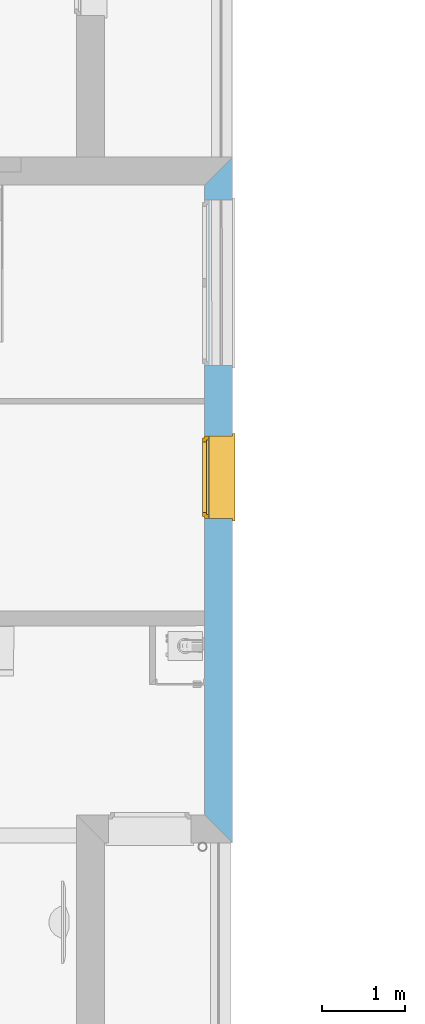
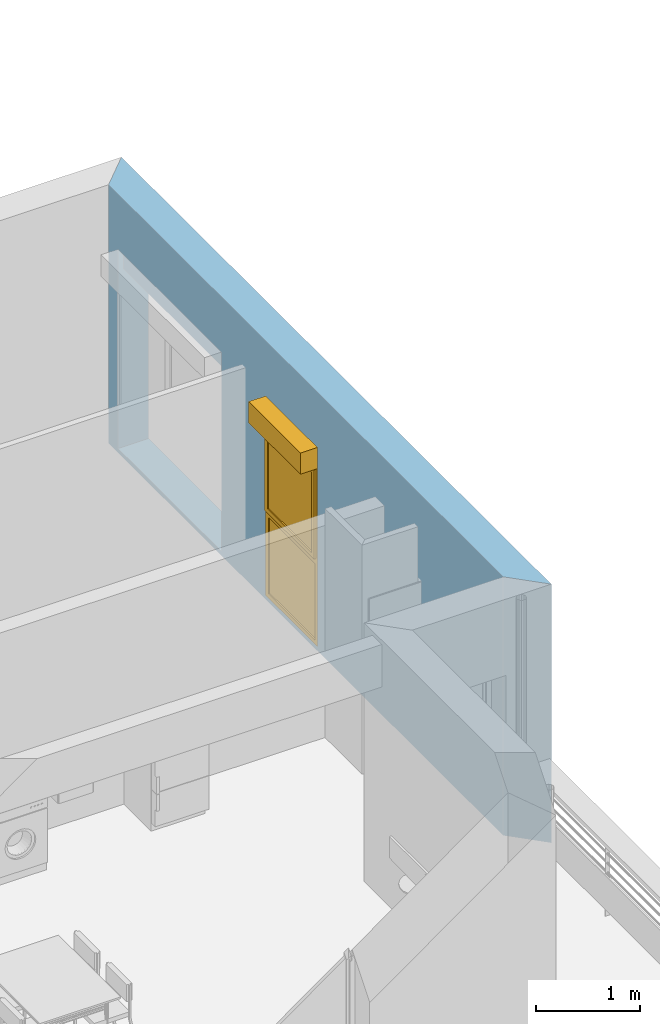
# One storey, part 19 of 165: 1 window, 2 openings, plus 1 element that does not belong to this part.
"""IFC2X3 building model written with IfcOpenShell, lengths in millimetres."""

from ifc_helpers import new_model, entity, si_unit, converted_unit, derived_unit, money_unit, direction, frame, origin_with_axes, place, context, subcontext, project, spatial, polyline, outline, extrude, open_shell, faceted_brep, surface_model, source, transform, mapped, material, layer, layer_set, layer_usage, type_object, element, fill, save


model = new_model("IFC2X3")

# Units and contexts
model_context = context("Model", 3, precision=0.01, world=origin_with_axes(), true_north=direction((0.0, 1.0)))
body_context = subcontext(model_context, "Body", "Model", "MODEL_VIEW")
ifc_project = project(units=[si_unit("LENGTHUNIT", "METRE", prefix="MILLI"), si_unit("AREAUNIT", "SQUARE_METRE"), si_unit("VOLUMEUNIT", "CUBIC_METRE"), converted_unit("PLANEANGLEUNIT", "DEGREE", entity("IfcPlaneAngleMeasure", 0.0174532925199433), si_unit("PLANEANGLEUNIT", "RADIAN"), dimensions=[0, 0, 0, 0, 0, 0, 0]), money_unit("USD"), converted_unit("TIMEUNIT", "Year", entity("IfcTimeMeasure", 31557600.0), si_unit("TIMEUNIT", "SECOND"), dimensions=[0, 0, 1, 0, 0, 0, 0]), si_unit("MASSUNIT", "GRAM", prefix="KILO"), si_unit("THERMODYNAMICTEMPERATUREUNIT", "DEGREE_CELSIUS"), si_unit("LUMINOUSINTENSITYUNIT", "LUMEN"), si_unit("ENERGYUNIT", "JOULE", prefix="MEGA"), derived_unit("THERMALCONDUCTANCEUNIT", [(si_unit("POWERUNIT", "WATT"), 1), (si_unit("LENGTHUNIT", "METRE"), -1), (si_unit("THERMODYNAMICTEMPERATUREUNIT", "KELVIN"), -1)]), derived_unit("SPECIFICHEATCAPACITYUNIT", [(si_unit("ENERGYUNIT", "JOULE"), 1), (si_unit("MASSUNIT", "GRAM", prefix="KILO"), -1), (si_unit("THERMODYNAMICTEMPERATUREUNIT", "KELVIN"), -1)]), derived_unit("MASSDENSITYUNIT", [(si_unit("MASSUNIT", "GRAM", prefix="KILO"), 1), (si_unit("VOLUMEUNIT", "CUBIC_METRE"), -1)])], contexts=[model_context])

# Site, building, storey
site_placement = place(None, origin_with_axes())
site = spatial("IfcSite", under=ifc_project, at=site_placement, Name="Site", CompositionType="ELEMENT")
building_placement = place(site_placement, origin_with_axes())
building = spatial("IfcBuilding", under=site, at=building_placement, Name="Bâtiment", CompositionType="ELEMENT")
storey_placement = place(building_placement, frame((0.0, 0.0, 8500.0), z_axis=(0.0, 0.0, 1.0), x_axis=(1.0, 0.0, 0.0)))
storey = spatial("IfcBuildingStorey", under=building, at=storey_placement, Name="Etage 2", CompositionType="ELEMENT", Elevation=8500.0)

# Wall, openings, window
ifc_material_1 = material(Name="Parpaing 312445824")
ifc_layer_1 = layer(ifc_material_1, 180.0, ventilated="UNKNOWN")
ifc_material_2 = material(Name="Isolant styromousse 301821074")
ifc_layer_2 = layer(ifc_material_2, 160.0, ventilated="UNKNOWN")
ifc_layer_set = layer_set([ifc_layer_1, ifc_layer_2], Name="isol int 18+16 0018356637")
ifc_layer_usage = layer_usage(ifc_layer_set, "AXIS2", "POSITIVE", 0.0)
wall_type = type_object("IfcWallType", Name="isol int 18+16 0018356637 340", PredefinedType="NOTDEFINED")
wall_placement = place(storey_placement, frame((2234356.671296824, -655041.4677782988, 0.0), z_axis=(0.0, 0.0, 1.0), x_axis=(0.0, 1.0, 0.0)))
wall = element("IfcWallStandardCase", 1, at=wall_placement, inside=storey, type_object=wall_type, material=ifc_layer_usage, Name="Mur-144", context=body_context, shape_type="SweptSolid", body=[
    extrude(outline(polyline([(0.0, 0.0), (8303.026472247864, 0.0), (7963.026472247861, 340.0000000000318), (340.0000000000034, 340.0000000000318), (0.0, 0.0)])), origin_with_axes(), (0.0, 0.0, 1.0), 3050.0),
])
opening_1_placement = place(wall_placement, frame((4427.8378465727, -2.273736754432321e-10, 50.00000000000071), z_axis=(0.0, 0.0, 1.0), x_axis=(1.0, 0.0, 0.0)))
opening_1 = element("IfcOpeningElement", 2, at=opening_1_placement, cuts=wall, Name="Fen-133", context=body_context, shape_type="Brep", body=[
    faceted_brep([(500.0, 290.0000000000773, 2100.0), (500.0, 280.0000000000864, 2100.0), (500.0, -0.9999999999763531, 2100.0), (500.0, -0.9999999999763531, 0.0), (500.0, 290.0000000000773, 0.0), (500.0, 341.0000000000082, 2100.0), (500.0, 530.0000000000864, 2100.0), (500.0, 530.0000000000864, 2350.0), (500.0, 280.0000000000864, 2350.0), (-500.0, 280.0000000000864, 2100.0), (-500.0, -0.9999999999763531, 2100.0), (-500.0, -0.9999999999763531, 0.0), (-500.0, 290.0000000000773, 0.0), (-500.0, 341.0000000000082, 0.0), (500.0, 341.0000000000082, 0.0), (-500.0, 341.0000000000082, 2100.0), (-500.0, 530.0000000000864, 2100.0), (-500.0, 530.0000000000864, 2350.0), (-500.0, 280.0000000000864, 2350.0), (-500.0, 290.0000000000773, 2100.0)], [[[0, 1, 2, 3, 4]], [[1, 0, 5, 6, 7, 8]], [[1, 9, 10, 2]], [[10, 11, 3, 2]], [[4, 3, 11, 12, 13, 14]], [[5, 0, 4, 14]], [[5, 15, 16, 6]], [[7, 6, 16, 17]], [[8, 7, 17, 18]], [[9, 1, 8, 18]], [[9, 19, 12, 11, 10]], [[19, 15, 13, 12]], [[15, 5, 14, 13]], [[19, 9, 18, 17, 16, 15]]]),
])
opening_2_placement = place(wall_placement, frame((6781.330882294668, -2.273736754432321e-10, 50.00000000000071), z_axis=(0.0, 0.0, 1.0), x_axis=(1.0, 0.0, 0.0)))
element("IfcOpeningElement", 3, at=opening_2_placement, cuts=wall, Name="Fen-207", context=body_context, shape_type="Brep", body=[
    faceted_brep([(1000.0, 290.0000000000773, 2100.0), (1000.0, 280.0000000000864, 2100.0), (1000.0, -0.9999999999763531, 2100.0), (1000.0, -0.9999999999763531, 0.0), (1000.0, 290.0000000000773, 0.0), (1000.0, 341.0000000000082, 2100.0), (1000.0, 530.0000000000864, 2100.0), (1000.0, 530.0000000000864, 2350.0), (1000.0, 280.0000000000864, 2350.0), (-1000.0, 280.0000000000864, 2100.0), (-1000.0, -0.9999999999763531, 2100.0), (-1000.0, -0.9999999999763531, 0.0), (-1000.0, 290.0000000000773, 0.0), (-1000.0, 341.0000000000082, 0.0), (1000.0, 341.0000000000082, 0.0), (-1000.0, 341.0000000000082, 2100.0), (-1000.0, 530.0000000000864, 2100.0), (-1000.0, 530.0000000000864, 2350.0), (-1000.0, 280.0000000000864, 2350.0), (-1000.0, 290.0000000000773, 2100.0)], [[[0, 1, 2, 3, 4]], [[1, 0, 5, 6, 7, 8]], [[1, 9, 10, 2]], [[10, 11, 3, 2]], [[4, 3, 11, 12, 13, 14]], [[5, 0, 4, 14]], [[5, 15, 16, 6]], [[7, 6, 16, 17]], [[8, 7, 17, 18]], [[9, 1, 8, 18]], [[9, 19, 12, 11, 10]], [[19, 15, 13, 12]], [[15, 5, 14, 13]], [[19, 9, 18, 17, 16, 15]]]),
])
window_style = type_object("IfcWindowStyle", Name="Fenêtre 27", ConstructionType="NOTDEFINED", OperationType="DOUBLE_PANEL_HORIZONTAL", ParameterTakesPrecedence=False, Sizeable=False)
shared_shape = source(origin_with_axes(), body_context, "Body", "SurfaceModel", [
    surface_model("IfcShellBasedSurfaceModel", [(500.0, -51.00000000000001, 40.00000000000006), (500.0, -51.00000000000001, 50.00000000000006), (-500.0, -51.00000000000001, 50.0), (-500.0, -51.00000000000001, 40.0), (530.0, -369.9999999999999, 28.96551724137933), (530.0, -339.9999999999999, 30.00324289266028), (500.0, -339.9999999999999, 30.00324289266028), (-500.0, -339.9999999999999, 30.00324289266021), (-530.0, -339.9999999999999, 30.00324289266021), (-530.0, -369.9999999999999, 28.96551724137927), (530.0, -369.9999999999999, 8.96551724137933), (-530.0, -369.9999999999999, 8.965517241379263), (530.0, -359.9999999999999, 18.96551724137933), (-530.0, -359.9999999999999, 18.96551724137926)], [open_shell([[[0, 1, 2, 3]], [[4, 5, 6, 0, 3, 7, 8, 9]], [[10, 4, 9, 11]], [[12, 10, 11, 13]]])]),
    faceted_brep([(-500.0, -59.99999999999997, 2350.0), (-497.0, -59.99999999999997, 2350.0), (-497.0, 190.0, 2350.0), (-500.0, 190.0, 2350.0), (-500.0, -59.99999999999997, 2100.0), (-497.0, -59.99999999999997, 2100.0), (-497.0, 190.0, 2100.0), (-500.0, 190.0, 2100.0)], [[[0, 1, 2, 3]], [[4, 5, 1, 0]], [[1, 5, 6, 2]], [[3, 2, 6, 7]], [[0, 3, 7, 4]], [[7, 6, 5, 4]]]),
    faceted_brep([(497.0, -59.99999999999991, 2350.0), (500.0, -59.99999999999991, 2350.0), (500.0, 190.0000000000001, 2350.0), (497.0, 190.0000000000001, 2350.0), (497.0, -59.99999999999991, 2100.0), (500.0, -59.99999999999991, 2100.0), (500.0, 190.0000000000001, 2100.0), (497.0, 190.0000000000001, 2100.0)], [[[0, 1, 2, 3]], [[4, 5, 1, 0]], [[1, 5, 6, 2]], [[3, 2, 6, 7]], [[0, 3, 7, 4]], [[7, 6, 5, 4]]]),
    faceted_brep([(-497.0, -60.0, 2100.0), (497.0, -59.99999999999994, 2100.0), (497.0, -59.99999999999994, 2350.0), (-497.0, -60.0, 2350.0), (-497.0, -56.99999999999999, 2100.0), (497.0, -56.99999999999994, 2100.0), (497.0, -56.99999999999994, 2347.0), (497.0, 187.0000000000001, 2347.0), (497.0, 187.0000000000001, 2103.0), (497.0, -37.99999999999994, 2103.0), (497.0, -37.99999999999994, 2100.0), (497.0, 190.0000000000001, 2100.0), (497.0, 190.0000000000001, 2350.0), (-497.0, 190.0, 2350.0), (-497.0, 190.0, 2100.0), (-497.0, -37.99999999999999, 2100.0), (-497.0, -37.99999999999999, 2103.0), (-497.0, 187.0, 2103.0), (-497.0, 187.0, 2347.0), (-497.0, -56.99999999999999, 2347.0)], [[[0, 1, 2, 3]], [[4, 5, 1, 0]], [[1, 5, 6, 7, 8, 9, 10, 11, 12, 2]], [[3, 2, 12, 13]], [[0, 3, 13, 14, 15, 16, 17, 18, 19, 4]], [[19, 6, 5, 4]], [[18, 7, 6, 19]], [[17, 8, 7, 18]], [[16, 9, 8, 17]], [[15, 10, 9, 16]], [[14, 11, 10, 15]], [[13, 12, 11, 14]]]),
    faceted_brep([(-494.0, -40.37442957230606, 2206.419644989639), (-494.0, -41.99999999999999, 2225.0), (-494.0, -40.37442957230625, 2243.580355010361), (-494.0, -35.54711042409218, 2261.596155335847), (-494.0, -27.66471820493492, 2278.5), (-494.0, -16.96675541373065, 2293.77827423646), (-494.0, -3.778274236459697, 2306.966755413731), (-494.0, 11.5, 2317.664718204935), (-494.0, 28.40384466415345, 2325.547110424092), (-494.0, 46.41964498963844, 2330.374429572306), (-494.0, 64.99999999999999, 2332.0), (-494.0, 83.58035501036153, 2330.374429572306), (-494.0, 101.5961553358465, 2325.547110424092), (-494.0, 118.5, 2317.664718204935), (-494.0, 133.7782742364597, 2306.966755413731), (-494.0, 146.9667554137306, 2293.77827423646), (-494.0, 157.6647182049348, 2278.5), (-494.0, 165.5471104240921, 2261.596155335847), (-494.0, 170.3744295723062, 2243.580355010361), (-494.0, 171.9999999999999, 2225.0), (-494.0, 170.3744295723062, 2206.419644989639), (-494.0, 165.5471104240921, 2188.403844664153), (-494.0, 157.6647182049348, 2171.5), (-494.0, 146.9667554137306, 2156.22172576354), (-494.0, 133.7782742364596, 2143.03324458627), (-494.0, 118.4999999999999, 2132.335281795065), (-494.0, 101.5961553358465, 2124.452889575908), (-494.0, 83.58035501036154, 2119.625570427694), (-494.0, 65.00000000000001, 2118.0), (-494.0, 46.4196449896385, 2119.625570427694), (-494.0, 28.40384466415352, 2124.452889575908), (-494.0, 11.50000000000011, 2132.335281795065), (-494.0, -3.778274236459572, 2143.03324458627), (-494.0, -16.9667554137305, 2156.22172576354), (-494.0, -27.66471820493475, 2171.5), (-494.0, -35.54711042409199, 2188.403844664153), (494.0, -40.374429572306, 2206.419644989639), (494.0, -41.99999999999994, 2225.0), (494.0, -40.37442957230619, 2243.580355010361), (494.0, -35.54711042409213, 2261.596155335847), (494.0, -27.66471820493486, 2278.5), (494.0, -16.96675541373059, 2293.77827423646), (494.0, -3.778274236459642, 2306.966755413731), (494.0, 11.50000000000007, 2317.664718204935), (494.0, 28.40384466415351, 2325.547110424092), (494.0, 46.41964498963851, 2330.374429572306), (494.0, 65.00000000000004, 2332.0), (494.0, 83.58035501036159, 2330.374429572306), (494.0, 101.5961553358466, 2325.547110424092), (494.0, 118.5, 2317.664718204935), (494.0, 133.7782742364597, 2306.966755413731), (494.0, 146.9667554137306, 2293.77827423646), (494.0, 157.6647182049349, 2278.5), (494.0, 165.5471104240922, 2261.596155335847), (494.0, 170.3744295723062, 2243.580355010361), (494.0, 172.0, 2225.0), (494.0, 170.3744295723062, 2206.419644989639), (494.0, 165.5471104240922, 2188.403844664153), (494.0, 157.6647182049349, 2171.5), (494.0, 146.9667554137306, 2156.22172576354), (494.0, 133.7782742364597, 2143.03324458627), (494.0, 118.5, 2132.335281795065), (494.0, 101.5961553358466, 2124.452889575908), (494.0, 83.5803550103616, 2119.625570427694), (494.0, 65.00000000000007, 2118.0), (494.0, 46.41964498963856, 2119.625570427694), (494.0, 28.40384466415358, 2124.452889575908), (494.0, 11.50000000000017, 2132.335281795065), (494.0, -3.778274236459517, 2143.03324458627), (494.0, -16.96675541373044, 2156.22172576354), (494.0, -27.6647182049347, 2171.5), (494.0, -35.54711042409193, 2188.403844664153)], [[[0, 1, 2, 3, 4, 5, 6, 7, 8, 9, 10, 11, 12, 13, 14, 15, 16, 17, 18, 19, 20, 21, 22, 23, 24, 25, 26, 27, 28, 29, 30, 31, 32, 33, 34, 35]], [[0, 36, 37, 1]], [[1, 37, 38, 2]], [[2, 38, 39, 3]], [[3, 39, 40, 4]], [[4, 40, 41, 5]], [[5, 41, 42, 6]], [[6, 42, 43, 7]], [[7, 43, 44, 8]], [[8, 44, 45, 9]], [[9, 45, 46, 10]], [[10, 46, 47, 11]], [[11, 47, 48, 12]], [[12, 48, 49, 13]], [[13, 49, 50, 14]], [[14, 50, 51, 15]], [[15, 51, 52, 16]], [[16, 52, 53, 17]], [[17, 53, 54, 18]], [[18, 54, 55, 19]], [[19, 55, 56, 20]], [[20, 56, 57, 21]], [[21, 57, 58, 22]], [[22, 58, 59, 23]], [[23, 59, 60, 24]], [[24, 60, 61, 25]], [[25, 61, 62, 26]], [[26, 62, 63, 27]], [[27, 63, 64, 28]], [[28, 64, 65, 29]], [[29, 65, 66, 30]], [[30, 66, 67, 31]], [[31, 67, 68, 32]], [[32, 68, 69, 33]], [[33, 69, 70, 34]], [[34, 70, 71, 35]], [[35, 71, 36, 0]], [[36, 71, 70, 69, 68, 67, 66, 65, 64, 63, 62, 61, 60, 59, 58, 57, 56, 55, 54, 53, 52, 51, 50, 49, 48, 47, 46, 45, 44, 43, 42, 41, 40, 39, 38, 37]]]),
    faceted_brep([(500.0, -34.99999999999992, 30.0), (500.0, -34.99999999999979, 2100.0), (500.0, -59.99999999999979, 2100.0), (500.0, -59.99999999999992, 30.0), (475.0, -34.99999999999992, 30.0), (475.0, -34.99999999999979, 2100.0), (475.0, -37.99999999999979, 2100.0), (497.0, -37.99999999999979, 2100.0), (497.0, -56.99999999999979, 2100.0), (475.0, -56.99999999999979, 2100.0), (475.0, -59.99999999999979, 2100.0), (475.0, -59.99999999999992, 30.0), (475.0, -56.99999999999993, 30.0), (497.0, -56.99999999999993, 30.0), (497.0, -37.99999999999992, 30.0), (475.0, -37.99999999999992, 30.0)], [[[0, 1, 2, 3]], [[4, 5, 1, 0]], [[1, 5, 6, 7, 8, 9, 10, 2]], [[3, 2, 10, 11]], [[0, 3, 11, 12, 13, 14, 15, 4]], [[15, 6, 5, 4]], [[14, 7, 6, 15]], [[13, 8, 7, 14]], [[12, 9, 8, 13]], [[11, 10, 9, 12]]]),
    faceted_brep([(-500.0, -34.99999999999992, 30.0), (-500.0, -59.99999999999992, 30.0), (-500.0, -59.99999999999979, 2100.0), (-500.0, -34.99999999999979, 2100.0), (-475.0, -34.99999999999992, 30.0), (-475.0, -37.99999999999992, 30.0), (-497.0, -37.99999999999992, 30.0), (-497.0, -56.99999999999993, 30.0), (-475.0, -56.99999999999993, 30.0), (-475.0, -59.99999999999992, 30.0), (-475.0, -59.99999999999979, 2100.0), (-475.0, -56.99999999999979, 2100.0), (-497.0, -56.99999999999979, 2100.0), (-497.0, -37.99999999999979, 2100.0), (-475.0, -37.99999999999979, 2100.0), (-475.0, -34.99999999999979, 2100.0)], [[[0, 1, 2, 3]], [[0, 4, 5, 6, 7, 8, 9, 1]], [[1, 9, 10, 2]], [[3, 2, 10, 11, 12, 13, 14, 15]], [[4, 0, 3, 15]], [[5, 4, 15, 14]], [[6, 5, 14, 13]], [[7, 6, 13, 12]], [[8, 7, 12, 11]], [[9, 8, 11, 10]]]),
    faceted_brep([(497.0, -46.66666666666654, 2225.0), (497.0, -46.66666666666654, 2216.666666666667), (-497.0, -46.6666666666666, 2216.666666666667), (-497.0, -46.6666666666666, 2225.0), (497.0, -51.66666666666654, 2225.0), (497.0, -51.66666666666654, 2216.666666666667), (497.0, -49.99999999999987, 2200.0), (497.0, -44.99999999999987, 2200.0), (-497.0, -44.99999999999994, 2200.0), (-497.0, -49.99999999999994, 2200.0), (-497.0, -51.6666666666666, 2216.666666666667), (-497.0, -51.6666666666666, 2225.0)], [[[0, 1, 2, 3]], [[4, 5, 6, 7, 1, 0]], [[2, 1, 7, 8]], [[3, 2, 8, 9, 10, 11]], [[3, 11, 4, 0]], [[10, 5, 4, 11]], [[9, 6, 5, 10]], [[8, 7, 6, 9]]]),
    faceted_brep([(-497.0, -44.99999999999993, 2200.0), (497.0, -44.99999999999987, 2200.0), (497.0, -46.66666666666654, 2183.333333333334), (-497.0, -46.6666666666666, 2183.333333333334), (-497.0, -49.99999999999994, 2200.0), (497.0, -49.99999999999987, 2200.0), (497.0, -51.66666666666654, 2183.333333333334), (497.0, -51.66666666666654, 2166.666666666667), (497.0, -49.99999999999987, 2150.000000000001), (497.0, -44.99999999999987, 2150.000000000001), (497.0, -46.66666666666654, 2166.666666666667), (-497.0, -46.6666666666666, 2166.666666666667), (-497.0, -44.99999999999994, 2150.000000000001), (-497.0, -49.99999999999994, 2150.000000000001), (-497.0, -51.6666666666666, 2166.666666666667), (-497.0, -51.6666666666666, 2183.333333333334)], [[[0, 1, 2, 3]], [[4, 5, 1, 0]], [[1, 5, 6, 7, 8, 9, 10, 2]], [[3, 2, 10, 11]], [[0, 3, 11, 12, 13, 14, 15, 4]], [[15, 6, 5, 4]], [[14, 7, 6, 15]], [[13, 8, 7, 14]], [[12, 9, 8, 13]], [[11, 10, 9, 12]]]),
    faceted_brep([(-497.0, -44.99999999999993, 2150.000000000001), (497.0, -44.99999999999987, 2150.000000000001), (497.0, -46.66666666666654, 2133.333333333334), (-497.0, -46.6666666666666, 2133.333333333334), (-497.0, -49.99999999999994, 2150.000000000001), (497.0, -49.99999999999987, 2150.000000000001), (497.0, -51.66666666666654, 2133.333333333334), (497.0, -51.66666666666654, 2116.666666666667), (497.0, -49.99999999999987, 2100.000000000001), (497.0, -44.99999999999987, 2100.000000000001), (497.0, -46.66666666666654, 2116.666666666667), (-497.0, -46.6666666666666, 2116.666666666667), (-497.0, -44.99999999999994, 2100.000000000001), (-497.0, -49.99999999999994, 2100.000000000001), (-497.0, -51.6666666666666, 2116.666666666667), (-497.0, -51.6666666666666, 2133.333333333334)], [[[0, 1, 2, 3]], [[4, 5, 1, 0]], [[1, 5, 6, 7, 8, 9, 10, 2]], [[3, 2, 10, 11]], [[0, 3, 11, 12, 13, 14, 15, 4]], [[15, 6, 5, 4]], [[14, 7, 6, 15]], [[13, 8, 7, 14]], [[12, 9, 8, 13]], [[11, 10, 9, 12]]]),
    faceted_brep([(-475.0000000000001, 0.0, 2050.0), (-500.0, 0.0, 2050.0), (-500.0, -50.00000000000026, 2050.0), (-450.0, -50.00000000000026, 2050.0), (-450.0, -25.00000000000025, 2050.0), (-475.0000000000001, -25.00000000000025, 2050.0), (-475.0000000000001, 0.0, 1025.0), (-450.0, 0.0, 1025.0), (-450.0, 0.0, 950.0), (-450.0, 0.0, 50.00000000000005), (-500.0, 0.0, 50.00000000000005), (-500.0, -50.00000000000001, 50.00000000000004), (-450.0, -50.00000000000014, 1050.0), (-450.0, -50.00000000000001, 50.00000000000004), (-450.0, -50.00000000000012, 950.0), (-450.0, -25.00000000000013, 1050.0), (-450.0, -25.00000000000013, 1025.0), (-475.0000000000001, -25.00000000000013, 1025.0)], [[[0, 1, 2, 3, 4, 5]], [[6, 7, 8, 9, 10, 1, 0]], [[1, 10, 11, 2]], [[12, 3, 2, 11, 13, 14]], [[4, 3, 12, 15]], [[15, 16, 17, 5, 4]], [[5, 17, 6, 0]], [[6, 17, 16, 7]], [[16, 15, 12, 14, 8, 7]], [[9, 8, 14, 13]], [[10, 9, 13, 11]]]),
    faceted_brep([(450.0, -25.00000000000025, 2050.0), (450.0, -50.00000000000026, 2050.0), (500.0, -50.00000000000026, 2050.0), (500.0, 0.0, 2050.0), (475.0000000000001, 0.0, 2050.0), (475.0000000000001, -25.00000000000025, 2050.0), (450.0, -25.00000000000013, 1050.0), (450.0, -50.00000000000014, 1050.0), (500.0, -50.00000000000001, 50.00000000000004), (450.0, -50.00000000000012, 950.0), (450.0, -50.00000000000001, 50.00000000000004), (500.0, 0.0, 50.00000000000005), (475.0000000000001, 0.0, 1025.0), (450.0, 0.0, 50.00000000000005), (450.0, 0.0, 950.0), (450.0, 0.0, 1025.0), (475.0000000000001, -25.00000000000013, 1025.0), (450.0, -25.00000000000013, 1025.0)], [[[0, 1, 2, 3, 4, 5]], [[6, 7, 1, 0]], [[8, 2, 1, 7, 9, 10]], [[11, 3, 2, 8]], [[12, 4, 3, 11, 13, 14, 15]], [[12, 16, 5, 4]], [[5, 16, 17, 6, 0]], [[17, 15, 14, 9, 7, 6]], [[14, 13, 10, 9]], [[13, 11, 8, 10]], [[15, 17, 16, 12]]]),
    faceted_brep([(-450.0, -25.00000000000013, 1050.0), (-450.0, -50.00000000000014, 1050.0), (450.0, -50.00000000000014, 1050.0), (450.0, -25.00000000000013, 1050.0), (-450.0, -25.00000000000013, 1025.0), (-450.0, 0.0, 1025.0), (-450.0, 0.0, 950.0), (-450.0, -50.00000000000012, 950.0), (450.0, -50.00000000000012, 950.0), (450.0, -25.00000000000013, 1025.0), (450.0, 0.0, 950.0), (450.0, 0.0, 1025.0)], [[[0, 1, 2, 3]], [[4, 5, 6, 7, 1, 0]], [[8, 2, 1, 7]], [[9, 3, 2, 8, 10, 11]], [[9, 4, 0, 3]], [[5, 4, 9, 11]], [[11, 10, 6, 5]], [[6, 10, 8, 7]]]),
    faceted_brep([(-475.0000000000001, 0.0, 2050.0), (-500.0, 0.0, 2050.0), (-500.0, 0.0, 2100.0), (500.0, 0.0, 2100.0), (500.0, 0.0, 2050.0), (475.0000000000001, 0.0, 2050.0), (475.0000000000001, 0.0, 2075.0), (-475.0000000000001, 0.0, 2075.0), (-475.0000000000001, -25.00000000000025, 2050.0), (-450.0, -25.00000000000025, 2050.0), (-450.0, -50.00000000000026, 2050.0), (-500.0, -50.00000000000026, 2050.0), (-500.0, -50.00000000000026, 2100.0), (500.0, -50.00000000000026, 2100.0), (500.0, -50.00000000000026, 2050.0), (475.0000000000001, -25.00000000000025, 2050.0), (450.0, -50.00000000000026, 2050.0), (450.0, -25.00000000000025, 2050.0), (475.0000000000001, -25.00000000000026, 2075.0), (-475.0000000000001, -25.00000000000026, 2075.0)], [[[0, 1, 2, 3, 4, 5, 6, 7]], [[8, 9, 10, 11, 1, 0]], [[2, 1, 11, 12]], [[3, 2, 12, 13]], [[4, 3, 13, 14]], [[15, 5, 4, 14, 16, 17]], [[5, 15, 18, 6]], [[6, 18, 19, 7]], [[7, 19, 8, 0]], [[17, 9, 8, 19, 18, 15]], [[17, 16, 10, 9]], [[14, 13, 12, 11, 10, 16]]]),
    faceted_brep([(-450.0, -50.00000000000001, 50.0), (-450.0, 0.0, 50.00000000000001), (-500.0, 0.0, 50.00000000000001), (-500.0, -50.00000000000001, 50.0), (450.0, -50.00000000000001, 50.0), (450.0, 0.0, 50.00000000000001), (500.0, 0.0, 50.00000000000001), (500.0, 0.0, 0.0), (-500.0, 0.0, 0.0), (-500.0, -50.0, 0.0), (500.0, -50.0, 0.0), (500.0, -50.00000000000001, 50.0)], [[[0, 1, 2, 3]], [[4, 5, 1, 0]], [[1, 5, 6, 7, 8, 2]], [[3, 2, 8, 9]], [[0, 3, 9, 10, 11, 4]], [[11, 6, 5, 4]], [[10, 7, 6, 11]], [[9, 8, 7, 10]]]),
    faceted_brep([(-425.0000000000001, -25.00000000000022, 2025.0), (-425.0000000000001, 24.99999999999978, 2025.0), (-475.0000000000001, 24.99999999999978, 2025.0), (-475.0000000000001, -25.00000000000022, 2025.0), (-425.0000000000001, -25.00000000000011, 1075.0), (-425.0000000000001, 24.9999999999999, 1075.0), (-475.0000000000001, 24.9999999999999, 1075.0), (-475.0000000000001, -25.0000000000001, 1075.0)], [[[0, 1, 2, 3]], [[4, 5, 1, 0]], [[1, 5, 6, 2]], [[3, 2, 6, 7]], [[0, 3, 7, 4]], [[7, 6, 5, 4]]]),
    faceted_brep([(425.0000000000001, -25.00000000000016, 1075.0), (425.0000000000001, 24.99999999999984, 1075.0), (475.0000000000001, 24.99999999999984, 1075.0), (475.0000000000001, -25.00000000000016, 1075.0), (425.0000000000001, -25.00000000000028, 2025.0), (425.0000000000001, 24.99999999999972, 2025.0), (475.0000000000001, 24.99999999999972, 2025.0), (475.0000000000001, -25.00000000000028, 2025.0)], [[[0, 1, 2, 3]], [[4, 5, 1, 0]], [[1, 5, 6, 2]], [[3, 2, 6, 7]], [[0, 3, 7, 4]], [[7, 6, 5, 4]]]),
    faceted_brep([(475.0000000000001, -25.00000000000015, 1025.0), (475.0000000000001, 24.99999999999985, 1025.0), (475.0000000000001, 24.99999999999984, 1075.0), (475.0000000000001, -25.00000000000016, 1075.0), (-475.0000000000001, -25.0000000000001, 1025.0), (-475.0000000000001, 24.9999999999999, 1025.0), (-475.0000000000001, 24.9999999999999, 1075.0), (-425.0000000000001, 24.9999999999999, 1075.0), (425.0000000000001, 24.99999999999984, 1075.0), (425.0000000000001, -25.00000000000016, 1075.0), (-425.0000000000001, -25.00000000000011, 1075.0), (-475.0000000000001, -25.0000000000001, 1075.0)], [[[0, 1, 2, 3]], [[4, 5, 1, 0]], [[1, 5, 6, 7, 8, 2]], [[3, 2, 8, 9]], [[0, 3, 9, 10, 11, 4]], [[11, 6, 5, 4]], [[10, 7, 6, 11]], [[9, 8, 7, 10]]]),
    faceted_brep([(-475.0000000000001, -25.00000000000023, 2075.0), (-475.0000000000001, 24.99999999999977, 2075.0), (-475.0000000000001, 24.99999999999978, 2025.0), (-475.0000000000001, -25.00000000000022, 2025.0), (475.0000000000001, -25.00000000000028, 2075.0), (475.0000000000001, 24.99999999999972, 2075.0), (475.0000000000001, 24.99999999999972, 2025.0), (425.0000000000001, 24.99999999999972, 2025.0), (-425.0000000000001, 24.99999999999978, 2025.0), (-425.0000000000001, -25.00000000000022, 2025.0), (425.0000000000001, -25.00000000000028, 2025.0), (475.0000000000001, -25.00000000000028, 2025.0)], [[[0, 1, 2, 3]], [[4, 5, 1, 0]], [[1, 5, 6, 7, 8, 2]], [[3, 2, 8, 9]], [[0, 3, 9, 10, 11, 4]], [[11, 6, 5, 4]], [[10, 7, 6, 11]], [[9, 8, 7, 10]]]),
    surface_model("IfcShellBasedSurfaceModel", [(-425.0000000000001, -10.00000000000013, 1075.0), (425.0000000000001, -10.00000000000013, 1075.0), (425.0000000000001, -10.00000000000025, 2025.0), (-425.0000000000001, -10.00000000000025, 2025.0)], [open_shell([[[0, 1, 2, 3]]])]),
    surface_model("IfcShellBasedSurfaceModel", [(-425.0000000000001, 9.999999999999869, 1075.0), (-425.0000000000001, 9.999999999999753, 2025.0), (425.0000000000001, 9.999999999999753, 2025.0), (425.0000000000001, 9.999999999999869, 1075.0)], [open_shell([[[0, 1, 2, 3]]])]),
    surface_model("IfcShellBasedSurfaceModel", [(-450.0, -35.0, 49.99999999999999), (450.0, -35.0, 49.99999999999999), (450.0, -35.00000000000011, 950.0), (-450.0, -35.00000000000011, 950.0)], [open_shell([[[0, 1, 2, 3]]])]),
    surface_model("IfcShellBasedSurfaceModel", [(-450.0, -15.0, 49.99999999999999), (-450.0, -15.00000000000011, 950.0), (450.0, -15.00000000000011, 950.0), (450.0, -15.0, 49.99999999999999)], [open_shell([[[0, 1, 2, 3]]])]),
])
window_placement = place(opening_1_placement, frame((-500.0000000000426, -2.273736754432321e-10, 0.0), z_axis=(0.0, 0.0, 1.0), x_axis=(1.0, 0.0, 0.0)))
window = element("IfcWindow", 4, at=window_placement, inside=storey, type_object=window_style, Name="Fen-133", OverallHeight=2100.0, OverallWidth=1000.0, context=body_context, shape_type="MappedRepresentation", body=[
    mapped(shared_shape, transform((500.0, 340.0000000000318, 0.0))),
])
fill(opening_1, window)

save(model, "model.ifc")
